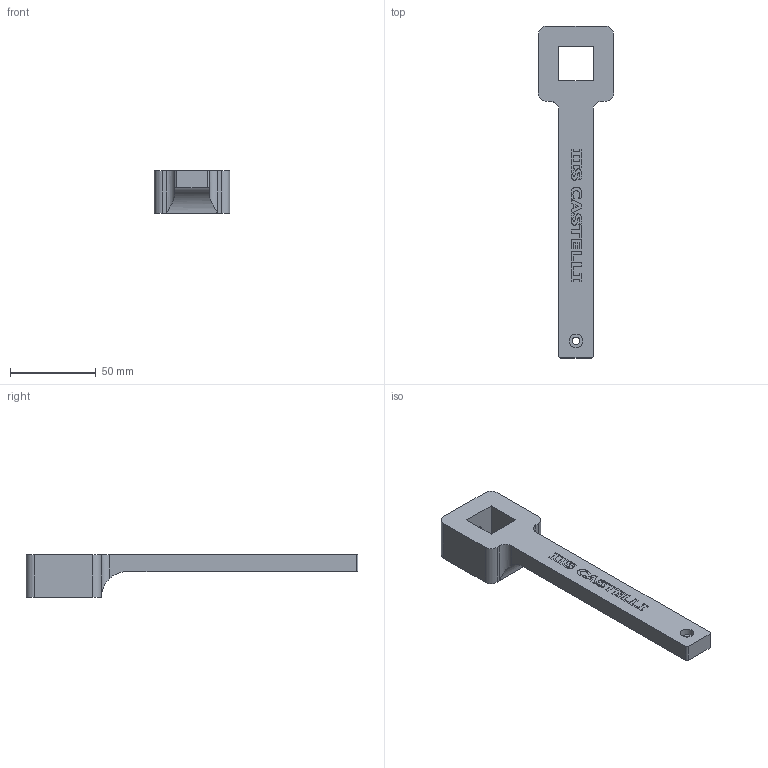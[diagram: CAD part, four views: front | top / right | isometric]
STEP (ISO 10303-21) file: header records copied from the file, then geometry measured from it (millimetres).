
FILE_DESCRIPTION(/* description */ (''),/* implementation_level */ '2;1');
FILE_NAME(/* name */ 'braccio.stp',/* time_stamp */ '2025-09-22T16:18:27+02:00',/* author */ ('R5800u'),/* organization */ (''),/* preprocessor_version */ 'ST-DEVELOPER v20',/* originating_system */ 'Autodesk Inventor 2025',/* authorisation */ '');
FILE_SCHEMA (('AUTOMOTIVE_DESIGN { 1 0 10303 214 3 1 1 }'));
Length unit declared in the file: millimetre
Products named in the file (1): braccio
Bounding box: 44 x 194 x 25 mm (x, y, z)
Volume: 68406.3 mm3; surface area: 18463.5 mm2
Topology: 1 solids, 1 shells, 177 faces, 484 edges, 322 vertices
Faces by surface type: plane 119, bspline 46, cylinder 12
Full cylindrical faces by diameter (mm): 4.5 x2, 8 x1
Entity records: 5845 total; most frequent: CARTESIAN_POINT 1596, ORIENTED_EDGE 968, DIRECTION 676, EDGE_CURVE 484, LINE 368, VECTOR 368, VERTEX_POINT 322, EDGE_LOOP 196
